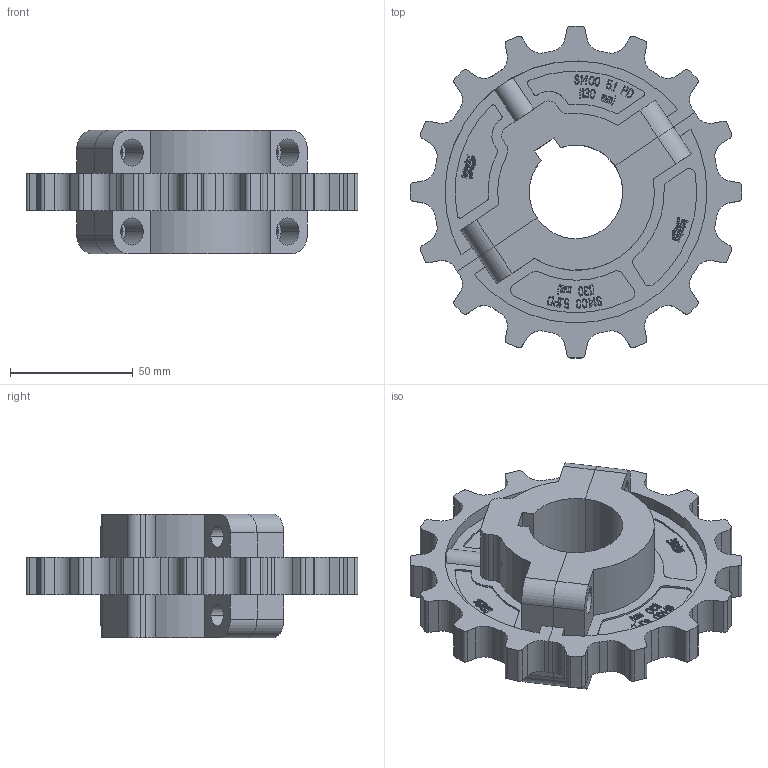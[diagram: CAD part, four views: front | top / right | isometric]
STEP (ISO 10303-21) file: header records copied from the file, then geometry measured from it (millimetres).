
FILE_DESCRIPTION((''),'2;1');
FILE_NAME('S1400_SPLIT_51_PILOT_ASM','2008-12-12T',('jmumphre'),(''),'PRO/ENGINEER BY PARAMETRIC TECHNOLOGY CORPORATION, 2008150','PRO/ENGINEER BY PARAMETRIC TECHNOLOGY CORPORATION, 2008150','');
FILE_SCHEMA(('CONFIG_CONTROL_DESIGN'));
Length unit declared in the file: inch
Products named in the file (3): S1400_SPLIT_51_PILOT_BOLT_AF0; S1400_SPLIT_51_PILOT_NUT_AF0; S1400_SPLIT_51_PILOT_ASM
Assembly tree (2 placements, depth 2):
  S1400_SPLIT_51_PILOT_ASM
    S1400_SPLIT_51_PILOT_BOLT_AF0
    S1400_SPLIT_51_PILOT_NUT_AF0
Bounding box: 135.05 x 135.05 x 50.29 mm (x, y, z)
Volume: 212021.8 mm3; surface area: 62574.1 mm2
Topology: 2 solids, 2 shells, 1785 faces, 5088 edges, 3392 vertices
Faces by surface type: plane 1389, cylinder 392, extrusion 4
Entity records: 58086 total; most frequent: CARTESIAN_POINT 10616, ORIENTED_EDGE 10176, DIRECTION 9428, EDGE_CURVE 5088, VECTOR 4296, LINE 4292, VERTEX_POINT 3392, AXIS2_PLACEMENT_3D 2566
